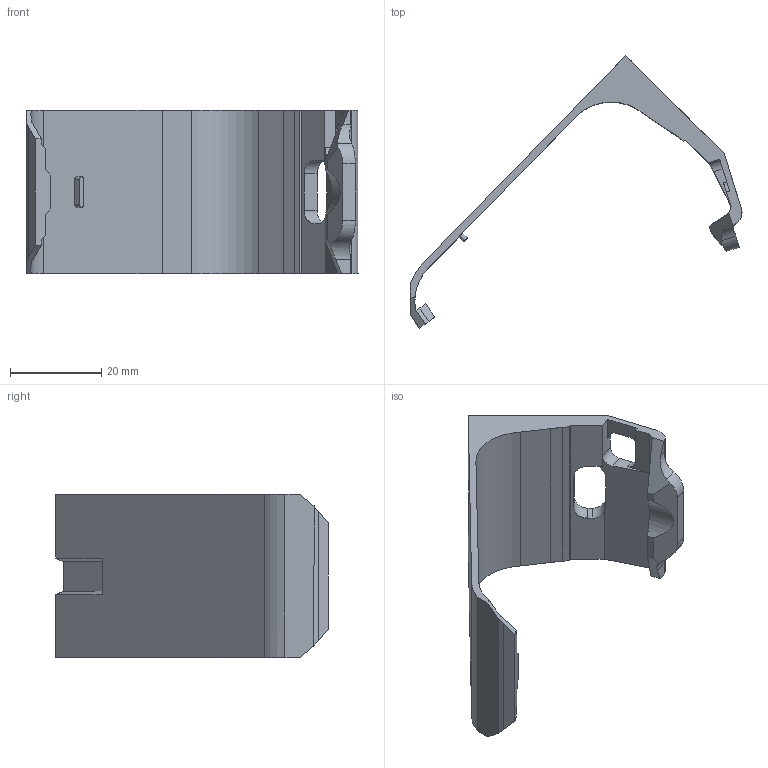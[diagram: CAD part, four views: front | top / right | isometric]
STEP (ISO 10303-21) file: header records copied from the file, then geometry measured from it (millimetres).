
FILE_DESCRIPTION(('HOOPS Exchange Step'),'2;1');
FILE_NAME('/Users/Chads/Library/Containers/com.shapr3d.shapr/Data/tmp/export/temp_export','2025-04-07T14:24:23-06:00',('Chads'),('Shapr3D Limited'),'HOOPS Exchange 2024.8','Shapr3D','Authorized');
FILE_SCHEMA( ('AP242_MANAGED_MODEL_BASED_3D_ENGINEERING_MIM_LF {1 0 10303 442 1 1 4}') );
Length unit declared in the file: millimetre
Products named in the file (2): Final V9 Layout; root
Assembly tree (1 placements, depth 2):
  root
    Final V9 Layout
Bounding box: 72.92 x 59.81 x 36 mm (x, y, z)
Volume: 11654.1 mm3; surface area: 10073.1 mm2
Topology: 1 solids, 1 shells, 124 faces, 364 edges, 245 vertices
Faces by surface type: plane 83, cylinder 21, bspline 20
Entity records: 4561 total; most frequent: CARTESIAN_POINT 1349, ORIENTED_EDGE 728, DIRECTION 552, EDGE_CURVE 364, VECTOR 264, LINE 264, VERTEX_POINT 245, AXIS2_PLACEMENT_3D 144
